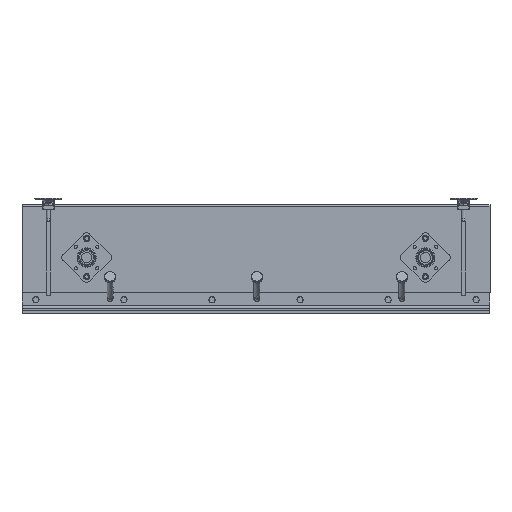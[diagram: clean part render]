
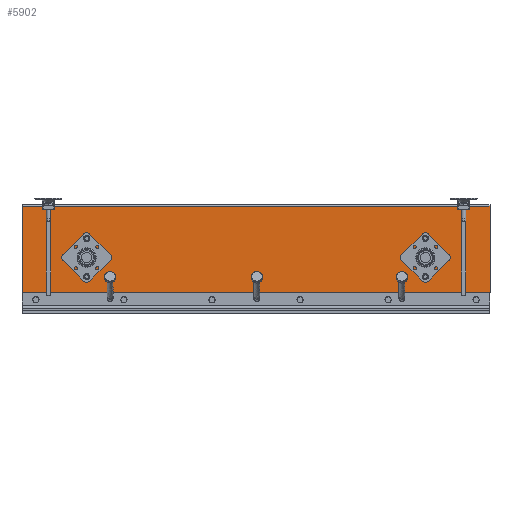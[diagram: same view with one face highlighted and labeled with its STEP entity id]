
A CAD part, left-side view. The second image highlights one B-rep face of the part: STEP entity #5902.
In plain terms, the highlighted planar face has unit normal (-1, 0, 0) as drawn and (0, 0, -1) by its records, which use the part's own axes.
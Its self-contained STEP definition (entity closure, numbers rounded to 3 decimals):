
#400=FACE_BOUND('',#1173,.T.);
#401=FACE_BOUND('',#1174,.T.);
#402=FACE_BOUND('',#1175,.T.);
#403=FACE_BOUND('',#1176,.T.);
#404=FACE_BOUND('',#1177,.T.);
#405=FACE_BOUND('',#1178,.T.);
#537=PLANE('',#6473);
#780=FACE_OUTER_BOUND('',#1172,.T.);
#1172=EDGE_LOOP('',(#4415,#4416,#4417,#4418));
#1173=EDGE_LOOP('',(#4419));
#1174=EDGE_LOOP('',(#4420));
#1175=EDGE_LOOP('',(#4421));
#1176=EDGE_LOOP('',(#4422));
#1177=EDGE_LOOP('',(#4423));
#1178=EDGE_LOOP('',(#4424));
#1637=LINE('',#9302,#2053);
#1652=LINE('',#9338,#2068);
#1655=LINE('',#9344,#2071);
#1656=LINE('',#9345,#2072);
#2053=VECTOR('',#7467,10.);
#2068=VECTOR('',#7506,10.);
#2071=VECTOR('',#7511,10.);
#2072=VECTOR('',#7512,10.);
#2470=CIRCLE('',#6442,1.5);
#2472=CIRCLE('',#6445,1.5);
#2474=CIRCLE('',#6448,1.5);
#2476=CIRCLE('',#6451,1.5);
#2478=CIRCLE('',#6454,11.);
#2480=CIRCLE('',#6457,11.);
#2793=VERTEX_POINT('',#9266);
#2795=VERTEX_POINT('',#9271);
#2797=VERTEX_POINT('',#9276);
#2799=VERTEX_POINT('',#9281);
#2801=VERTEX_POINT('',#9286);
#2803=VERTEX_POINT('',#9291);
#2807=VERTEX_POINT('',#9299);
#2808=VERTEX_POINT('',#9301);
#2817=VERTEX_POINT('',#9337);
#2819=VERTEX_POINT('',#9343);
#3400=EDGE_CURVE('',#2793,#2793,#2470,.T.);
#3402=EDGE_CURVE('',#2795,#2795,#2472,.T.);
#3404=EDGE_CURVE('',#2797,#2797,#2474,.T.);
#3406=EDGE_CURVE('',#2799,#2799,#2476,.T.);
#3408=EDGE_CURVE('',#2801,#2801,#2478,.T.);
#3410=EDGE_CURVE('',#2803,#2803,#2480,.T.);
#3414=EDGE_CURVE('',#2808,#2807,#1637,.T.);
#3432=EDGE_CURVE('',#2817,#2808,#1652,.T.);
#3435=EDGE_CURVE('',#2807,#2819,#1655,.T.);
#3436=EDGE_CURVE('',#2819,#2817,#1656,.T.);
#4415=ORIENTED_EDGE('',*,*,#3414,.T.);
#4416=ORIENTED_EDGE('',*,*,#3435,.T.);
#4417=ORIENTED_EDGE('',*,*,#3436,.T.);
#4418=ORIENTED_EDGE('',*,*,#3432,.T.);
#4419=ORIENTED_EDGE('',*,*,#3400,.T.);
#4420=ORIENTED_EDGE('',*,*,#3402,.T.);
#4421=ORIENTED_EDGE('',*,*,#3404,.T.);
#4422=ORIENTED_EDGE('',*,*,#3406,.T.);
#4423=ORIENTED_EDGE('',*,*,#3408,.T.);
#4424=ORIENTED_EDGE('',*,*,#3410,.T.);
#5902=ADVANCED_FACE('',(#780,#400,#401,#402,#403,#404,#405),#537,.F.);
#6442=AXIS2_PLACEMENT_3D('',#9267,#7428,#7429);
#6445=AXIS2_PLACEMENT_3D('',#9272,#7434,#7435);
#6448=AXIS2_PLACEMENT_3D('',#9277,#7440,#7441);
#6451=AXIS2_PLACEMENT_3D('',#9282,#7446,#7447);
#6454=AXIS2_PLACEMENT_3D('',#9287,#7452,#7453);
#6457=AXIS2_PLACEMENT_3D('',#9292,#7458,#7459);
#6473=AXIS2_PLACEMENT_3D('',#9342,#7509,#7510);
#7428=DIRECTION('center_axis',(0.,0.,1.));
#7429=DIRECTION('ref_axis',(-1.,0.,0.));
#7434=DIRECTION('center_axis',(0.,0.,1.));
#7435=DIRECTION('ref_axis',(-1.,0.,0.));
#7440=DIRECTION('center_axis',(0.,0.,1.));
#7441=DIRECTION('ref_axis',(-1.,0.,0.));
#7446=DIRECTION('center_axis',(0.,0.,1.));
#7447=DIRECTION('ref_axis',(-1.,0.,0.));
#7452=DIRECTION('center_axis',(0.,0.,1.));
#7453=DIRECTION('ref_axis',(-1.,0.,0.));
#7458=DIRECTION('center_axis',(0.,0.,1.));
#7459=DIRECTION('ref_axis',(-1.,0.,0.));
#7467=DIRECTION('',(1.,0.,0.));
#7506=DIRECTION('',(0.,1.,0.));
#7509=DIRECTION('center_axis',(0.,0.,1.));
#7510=DIRECTION('ref_axis',(1.,0.,0.));
#7511=DIRECTION('',(0.,-1.,0.));
#7512=DIRECTION('',(-1.,0.,0.));
#9266=CARTESIAN_POINT('',(111.5,-57.5,0.));
#9267=CARTESIAN_POINT('Origin',(110.,-57.5,0.));
#9271=CARTESIAN_POINT('',(688.5,-122.5,0.));
#9272=CARTESIAN_POINT('Origin',(687.,-122.5,0.));
#9276=CARTESIAN_POINT('',(688.5,-57.5,0.));
#9277=CARTESIAN_POINT('Origin',(687.,-57.5,0.));
#9281=CARTESIAN_POINT('',(111.5,-122.5,0.));
#9282=CARTESIAN_POINT('Origin',(110.,-122.5,0.));
#9286=CARTESIAN_POINT('',(698.,-90.,0.));
#9287=CARTESIAN_POINT('Origin',(687.,-90.,0.));
#9291=CARTESIAN_POINT('',(121.,-90.,0.));
#9292=CARTESIAN_POINT('Origin',(110.,-90.,0.));
#9299=CARTESIAN_POINT('',(797.,-3.,0.));
#9301=CARTESIAN_POINT('',(0.,-3.,0.));
#9302=CARTESIAN_POINT('',(199.25,-3.,0.));
#9337=CARTESIAN_POINT('',(0.,-150.,0.));
#9338=CARTESIAN_POINT('',(0.,-150.,0.));
#9342=CARTESIAN_POINT('Origin',(398.5,-75.,0.));
#9343=CARTESIAN_POINT('',(797.,-150.,0.));
#9344=CARTESIAN_POINT('',(797.,0.,0.));
#9345=CARTESIAN_POINT('',(797.,-150.,0.));
